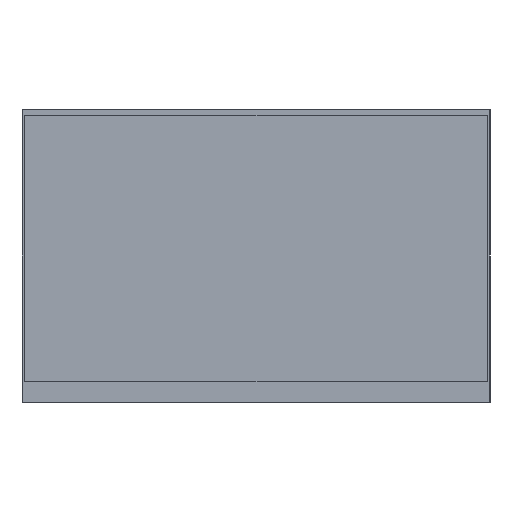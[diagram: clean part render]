
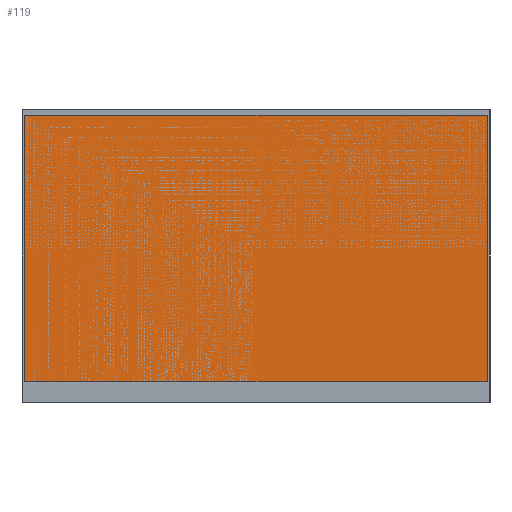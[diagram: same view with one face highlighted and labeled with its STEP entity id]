
A CAD part, left-side view. The second image highlights one B-rep face of the part: STEP entity #119.
In plain terms, the highlighted planar face has unit normal (-1, 0, 0).
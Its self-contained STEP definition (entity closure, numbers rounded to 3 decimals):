
#21 = EDGE_CURVE('',#22,#24,#26,.T.);
#22 = VERTEX_POINT('',#23);
#23 = CARTESIAN_POINT('',(-1.,-0.625,0.08));
#24 = VERTEX_POINT('',#25);
#25 = CARTESIAN_POINT('',(-1.,-0.625,0.8));
#26 = LINE('',#27,#28);
#27 = CARTESIAN_POINT('',(-1.,-0.625,0.08));
#28 = VECTOR('',#29,1.);
#29 = DIRECTION('',(0.,0.,1.));
#94 = VERTEX_POINT('',#95);
#95 = CARTESIAN_POINT('',(-1.,0.625,0.8));
#101 = EDGE_CURVE('',#102,#94,#104,.T.);
#102 = VERTEX_POINT('',#103);
#103 = CARTESIAN_POINT('',(-1.,0.625,0.08));
#104 = LINE('',#105,#106);
#105 = CARTESIAN_POINT('',(-1.,0.625,0.08));
#106 = VECTOR('',#107,1.);
#107 = DIRECTION('',(0.,0.,1.));
#119 = ADVANCED_FACE('',(#120),#136,.F.);
#120 = FACE_BOUND('',#121,.F.);
#121 = EDGE_LOOP('',(#122,#123,#129,#130));
#122 = ORIENTED_EDGE('',*,*,#101,.T.);
#123 = ORIENTED_EDGE('',*,*,#124,.T.);
#124 = EDGE_CURVE('',#94,#24,#125,.T.);
#125 = LINE('',#126,#127);
#126 = CARTESIAN_POINT('',(-1.,0.625,0.8));
#127 = VECTOR('',#128,1.);
#128 = DIRECTION('',(0.,-1.,0.));
#129 = ORIENTED_EDGE('',*,*,#21,.F.);
#130 = ORIENTED_EDGE('',*,*,#131,.F.);
#131 = EDGE_CURVE('',#102,#22,#132,.T.);
#132 = LINE('',#133,#134);
#133 = CARTESIAN_POINT('',(-1.,0.625,0.08));
#134 = VECTOR('',#135,1.);
#135 = DIRECTION('',(0.,-1.,0.));
#136 = PLANE('',#137);
#137 = AXIS2_PLACEMENT_3D('',#138,#139,#140);
#138 = CARTESIAN_POINT('',(-1.,0.625,0.08));
#139 = DIRECTION('',(1.,0.,-0.));
#140 = DIRECTION('',(0.,-1.,0.));
